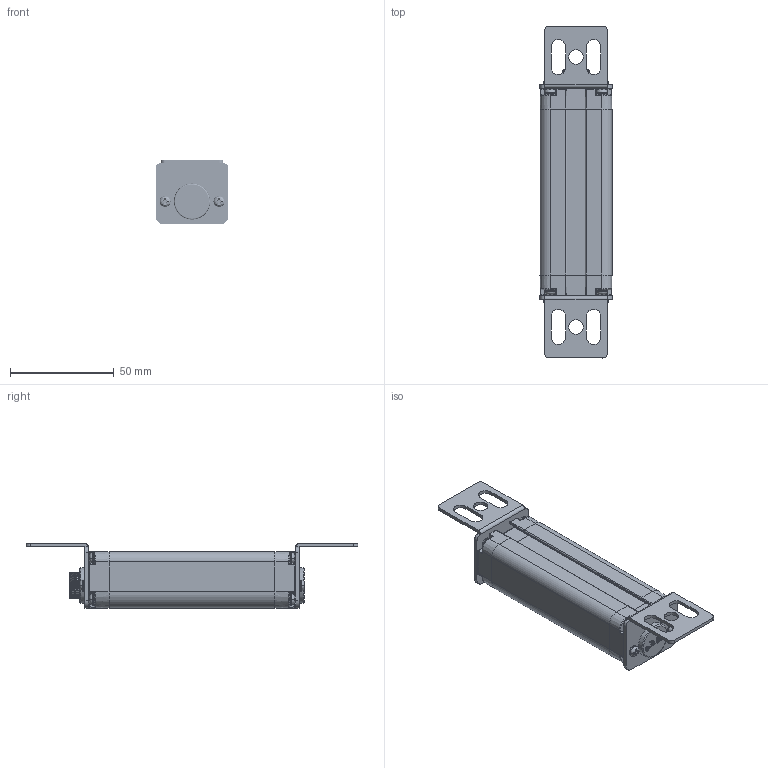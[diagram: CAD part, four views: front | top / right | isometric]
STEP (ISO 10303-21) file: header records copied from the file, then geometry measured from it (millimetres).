
FILE_DESCRIPTION((''),'2;1');
FILE_NAME('ELG-0440_ASM','2021-08-06T18:44:10',('18720616900'),(''),'CREO PARAMETRIC BY PTC INC, 2019010','CREO PARAMETRIC BY PTC INC, 2019010','');
FILE_SCHEMA(('CONFIG_CONTROL_DESIGN'));
Products named in the file (12): ELG--00; ELG--000; ELG000; M3--0001; 3000; 3--0001; ELG_30001_ASM; ST-3-12; L20001; M3-6; ELG-0440_ASM
Assembly tree (27 placements, depth 3):
  ELG-0440_ASM
    ELG--00
    ELG--000
    ELG000
    ELG000
    M3--0001  x4
    ELG_30001_ASM
      3000
      3--0001  x3
    ST-3-12  x8
    L20001  x2
    M3-6  x4
Bounding box: 35 x 160 x 31.19 mm (x, y, z)
Volume: 90256.5 mm3; surface area: 36239.1 mm2
Topology: 26 solids, 26 shells, 3150 faces, 8842 edges, 5771 vertices
Faces by surface type: cylinder 1876, plane 522, bspline 356, cone 299, torus 87, sphere 10
Entity records: 59034 total; most frequent: CARTESIAN_POINT 28234, ORIENTED_EDGE 6700, DIRECTION 6159, EDGE_CURVE 3350, AXIS2_PLACEMENT_3D 2342, VERTEX_POINT 2189, VECTOR 1475, LINE 1475
